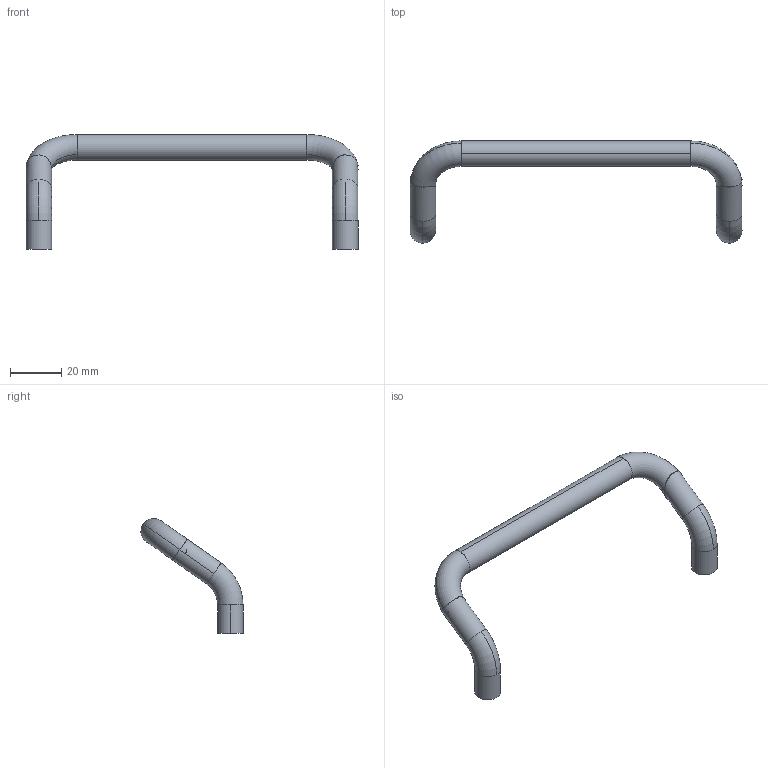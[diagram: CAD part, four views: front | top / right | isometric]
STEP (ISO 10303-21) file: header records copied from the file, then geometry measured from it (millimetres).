
FILE_DESCRIPTION (( 'STEP AP214' ), '1' );
FILE_NAME ('1.4015 Kahva AL taivutettu.STEP', '2025-09-10T11:00:14', ( '' ), ( '' ), 'SwSTEP 2.0', 'SolidWorks 2025', '' );
FILE_SCHEMA (( 'AUTOMOTIVE_DESIGN' ));
Length unit declared in the file: millimetre
Products named in the file (1): 1.4015 Kahva AL taivutettu
Bounding box: 130 x 39.99 x 44.99 mm (x, y, z)
Volume: 16555.6 mm3; surface area: 7335.6 mm2
Topology: 1 solids, 1 shells, 52 faces, 132 edges, 82 vertices
Faces by surface type: torus 20, cylinder 16, plane 12, cone 4
Entity records: 2647 total; most frequent: CARTESIAN_POINT 943, ORIENTED_EDGE 256, DIRECTION 252, EDGE_CURVE 128, AXIS2_PLACEMENT_3D 115, VERTEX_POINT 82, CIRCLE 62, EDGE_LOOP 56
